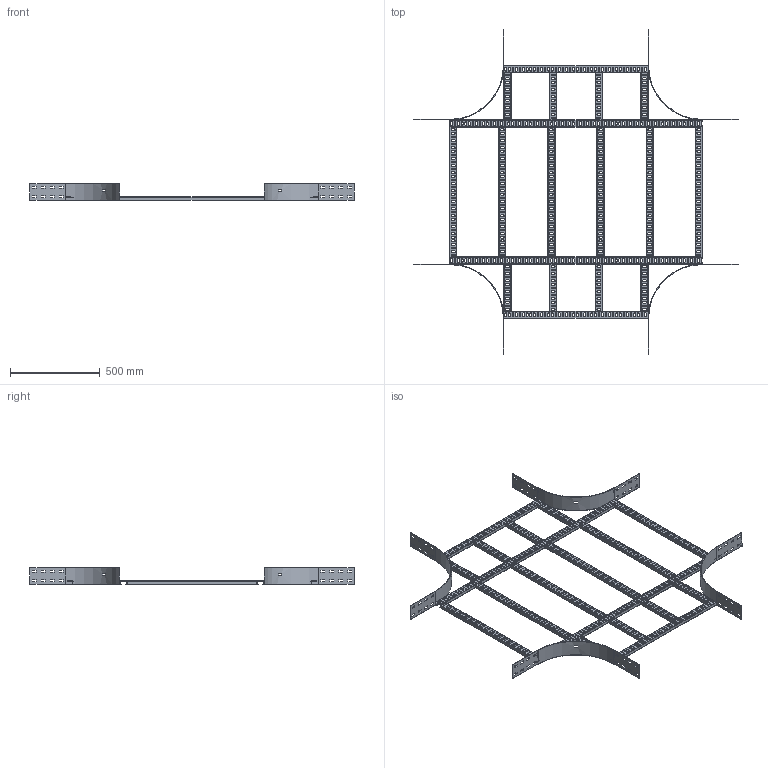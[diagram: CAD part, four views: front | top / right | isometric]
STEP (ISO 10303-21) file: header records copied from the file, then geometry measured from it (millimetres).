
FILE_DESCRIPTION(/* description */ ('','CAx-IF Rec.Pracs.---Representation and Presentation of Product Manufacturing Information (PMI)---4.0---2014-10-13'),/* implementation_level */ '2;1');
FILE_NAME(/* name */ 'Eurostrut_ECO100-800-300_Crossover for Cable Ladder ECL.step',/* time_stamp */ '2026-09-03T13:28:41+02:00',/* author */ (''),/* organization */ (''),/* preprocessor_version */ 'ST-DEVELOPER v20.1',/* originating_system */ 'Autodesk Revit 2027 27.2.0.39',/* authorisation */ '');
FILE_SCHEMA (('AP242_MANAGED_MODEL_BASED_3D_ENGINEERING_MIM_LF { 1 0 10303 442 2 1 4 }'));
Products named in the file (10): TopLevelAssembly; Sweep; Sweep_1; Sweep_2; Sweep_3; Eurostrut_Cable Ladder_Rung_With slots; Eurostrut_Cable Ladder_Rung_With slots_1; Eurostrut_Cable Ladder_Rung Array Straight_Slotted; Eurostrut_Cable Ladder_Rung Array Straight_Slotted_1; Eurostrut_Cable Ladder_Accessory End_54-94-142
Assembly tree (19 placements, depth 2):
  TopLevelAssembly
    Sweep
    Sweep_1
    Eurostrut_Cable Ladder_Rung_With slots  x2
    Eurostrut_Cable Ladder_Rung_With slots_1  x2
    Sweep_2
    Sweep_3
    Eurostrut_Cable Ladder_Rung Array Straight_Slotted
    Eurostrut_Cable Ladder_Rung Array Straight_Slotted_1  x2
    Eurostrut_Cable Ladder_Accessory End_54-94-142  x8
Bounding box: 1811 x 1811 x 94 mm (x, y, z)
Volume: 2270654.4 mm3; surface area: 2526238.6 mm2
Topology: 30 solids, 30 shells, 2836 faces, 8328 edges, 5552 vertices
Faces by surface type: plane 1672, bspline 1084, cylinder 80
Entity records: 83594 total; most frequent: CARTESIAN_POINT 34153, ORIENTED_EDGE 10656, DIRECTION 9134, EDGE_CURVE 5328, LINE 3684, VECTOR 3684, VERTEX_POINT 3552, AXIS2_PLACEMENT_3D 2725
